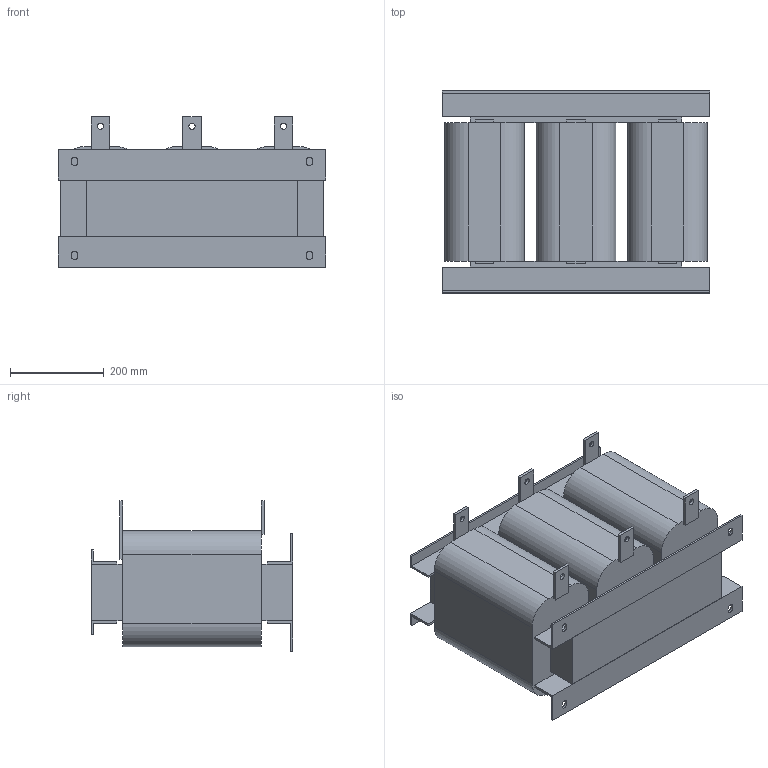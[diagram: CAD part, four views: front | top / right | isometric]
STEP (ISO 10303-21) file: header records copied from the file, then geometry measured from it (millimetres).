
FILE_DESCRIPTION(/* description */ (''),/* implementation_level */ '2;1');
FILE_NAME(/* name */ 'ACO-0540-T6-4.stp',/* time_stamp */ '2025-01-23T16:37:38+04:00',/* author */ ('Александр (огранич)'),/* organization */ (''),/* preprocessor_version */ 'ST-DEVELOPER v19.2',/* originating_system */ 'Autodesk Inventor 2024',/* authorisation */ '');
FILE_SCHEMA (('AUTOMOTIVE_DESIGN { 1 0 10303 214 3 1 1 }'));
Length unit declared in the file: millimetre
Products named in the file (1): ACO-0015-T4-4
Bounding box: 570 x 430 x 320 mm (x, y, z)
Volume: 43690360.7 mm3; surface area: 1393407.3 mm2
Topology: 1 solids, 1 shells, 136 faces, 378 edges, 240 vertices
Faces by surface type: plane 110, cylinder 26
Full cylindrical faces by diameter (mm): 13 x6
Entity records: 4357 total; most frequent: ORIENTED_EDGE 756, CARTESIAN_POINT 755, DIRECTION 704, EDGE_CURVE 378, LINE 326, VECTOR 326, VERTEX_POINT 240, AXIS2_PLACEMENT_3D 189
